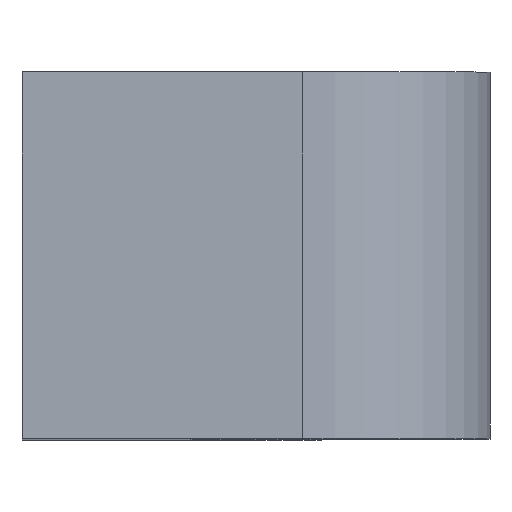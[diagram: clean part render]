
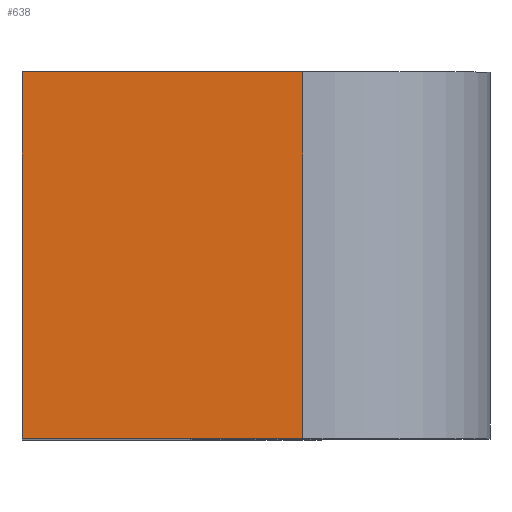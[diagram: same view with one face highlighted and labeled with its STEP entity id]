
A CAD part, top view. The second image highlights one B-rep face of the part: STEP entity #638.
In plain terms, the highlighted planar face has unit normal (0, 0, 1).
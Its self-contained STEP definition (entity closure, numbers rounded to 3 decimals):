
#30=PLANE('',#695);
#59=FACE_OUTER_BOUND('',#97,.T.);
#97=EDGE_LOOP('',(#470,#471,#472,#473));
#142=LINE('',#942,#212);
#150=LINE('',#962,#220);
#151=LINE('',#964,#221);
#152=LINE('',#965,#222);
#212=VECTOR('',#757,10.);
#220=VECTOR('',#777,10.);
#221=VECTOR('',#778,10.);
#222=VECTOR('',#779,10.);
#304=VERTEX_POINT('',#939);
#305=VERTEX_POINT('',#941);
#311=VERTEX_POINT('',#961);
#312=VERTEX_POINT('',#963);
#364=EDGE_CURVE('',#304,#305,#142,.T.);
#374=EDGE_CURVE('',#304,#311,#150,.T.);
#375=EDGE_CURVE('',#312,#311,#151,.T.);
#376=EDGE_CURVE('',#305,#312,#152,.T.);
#470=ORIENTED_EDGE('',*,*,#364,.F.);
#471=ORIENTED_EDGE('',*,*,#374,.T.);
#472=ORIENTED_EDGE('',*,*,#375,.F.);
#473=ORIENTED_EDGE('',*,*,#376,.F.);
#638=ADVANCED_FACE('',(#59),#30,.F.);
#695=AXIS2_PLACEMENT_3D('',#960,#775,#776);
#757=DIRECTION('',(-1.,0.,0.));
#775=DIRECTION('center_axis',(0.,0.,-1.));
#776=DIRECTION('ref_axis',(-1.,0.,0.));
#777=DIRECTION('',(0.,1.,0.));
#778=DIRECTION('',(1.,0.,0.));
#779=DIRECTION('',(0.,1.,0.));
#939=CARTESIAN_POINT('',(48.726,-23.,44.084));
#941=CARTESIAN_POINT('',(41.226,-23.,44.084));
#942=CARTESIAN_POINT('',(48.664,-23.,44.084));
#960=CARTESIAN_POINT('Origin',(48.726,-23.,44.084));
#961=CARTESIAN_POINT('',(48.726,-13.2,44.084));
#962=CARTESIAN_POINT('',(48.726,-23.,44.084));
#963=CARTESIAN_POINT('',(41.226,-13.2,44.084));
#964=CARTESIAN_POINT('',(48.664,-13.2,44.084));
#965=CARTESIAN_POINT('',(41.226,-12.25,44.084));
